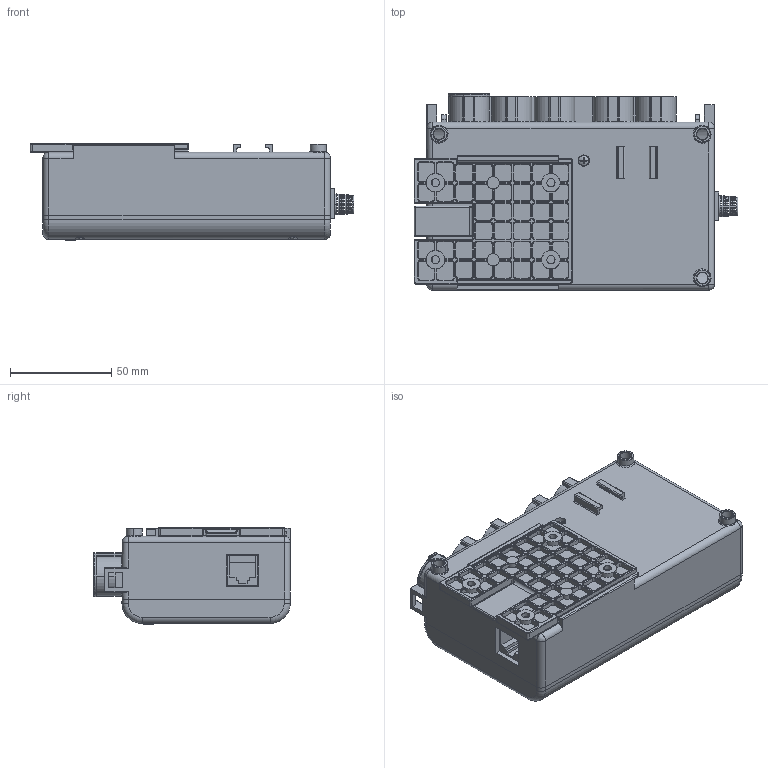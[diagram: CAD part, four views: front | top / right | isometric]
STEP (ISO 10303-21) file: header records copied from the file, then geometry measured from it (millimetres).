
FILE_DESCRIPTION (( 'STEP AP203' ), '1' );
FILE_NAME ('CS2-BT-WU.STEP', '2022-07-28T02:56:59', ( '' ), ( '' ), 'SwSTEP 2.0', 'SolidWorks 2020', '' );
FILE_SCHEMA (( 'CONFIG_CONTROL_DESIGN' ));
Length unit declared in the file: millimetre
Products named in the file (1): CS2-BT-WU
Bounding box: 159.7 x 97 x 47.8 mm (x, y, z)
Surface area: 67508.1 mm2 (no closed solid volume)
Topology: 0 solids, 20 shells, 1316 faces, 3721 edges, 2410 vertices
Faces by surface type: cylinder 562, plane 448, torus 230, bspline 30, cone 24, sphere 22
Entity records: 50518 total; most frequent: CARTESIAN_POINT 16338, DIRECTION 7443, ORIENTED_EDGE 6753, EDGE_CURVE 3704, AXIS2_PLACEMENT_3D 2825, VERTEX_POINT 2410, LINE 1793, VECTOR 1793
